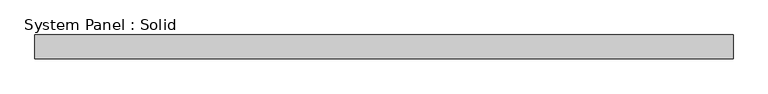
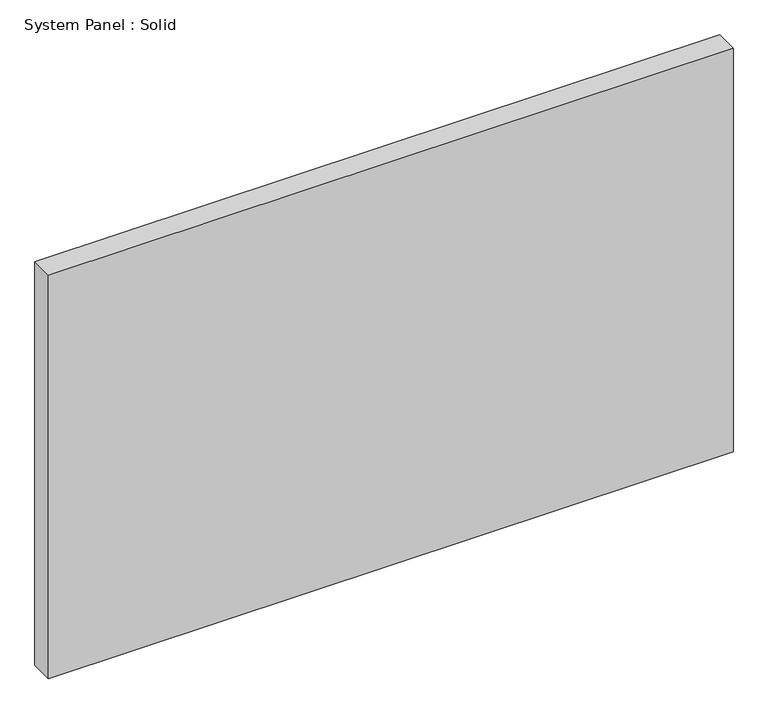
"""IFC4 building model written with IfcOpenShell, lengths in millimetres: plate geometry, System Panel : Solid."""

from ifc_helpers import new_model, si_unit, origin, origin_with_axes, place, context, project, spatial, polyline, outline, extrude, source, transform, mapped, element, save


def system_panel_solid_f3cfc6ec(model_context):
    return source(origin(), model_context, "Body", "SweptSolid", [
        extrude(outline(polyline([(927.1, -44.45), (-927.1, -44.45), (-927.1, 19.05), (927.1, 19.05), (927.1, -44.45)])), origin_with_axes(), (0.0, 0.0, 1.0), 1155.7),
    ])


if __name__ == "__main__":
    model = new_model("IFC4")
    model_context = context("Model", 3, world=origin())
    ifc_project = project(units=[si_unit("LENGTHUNIT", "METRE", prefix="MILLI")], contexts=[model_context])
    site = spatial("IfcSite", under=ifc_project)
    building = spatial("IfcBuilding", under=site)
    placement = place(None, origin())
    system_panel_solid_shape = system_panel_solid_f3cfc6ec(model_context)
    element("IfcPlate", 1, ObjectType="System Panel : Solid", at=placement, inside=building, context=model_context, shape_type="MappedRepresentation", body=[
        mapped(system_panel_solid_shape, transform((0.0, 0.0, 0.0), x_axis=(1.0, 0.0, 0.0), y_axis=(0.0, 1.0, 0.0), z_axis=(0.0, 0.0, 1.0))),
    ])
    save(model, "model.ifc")
